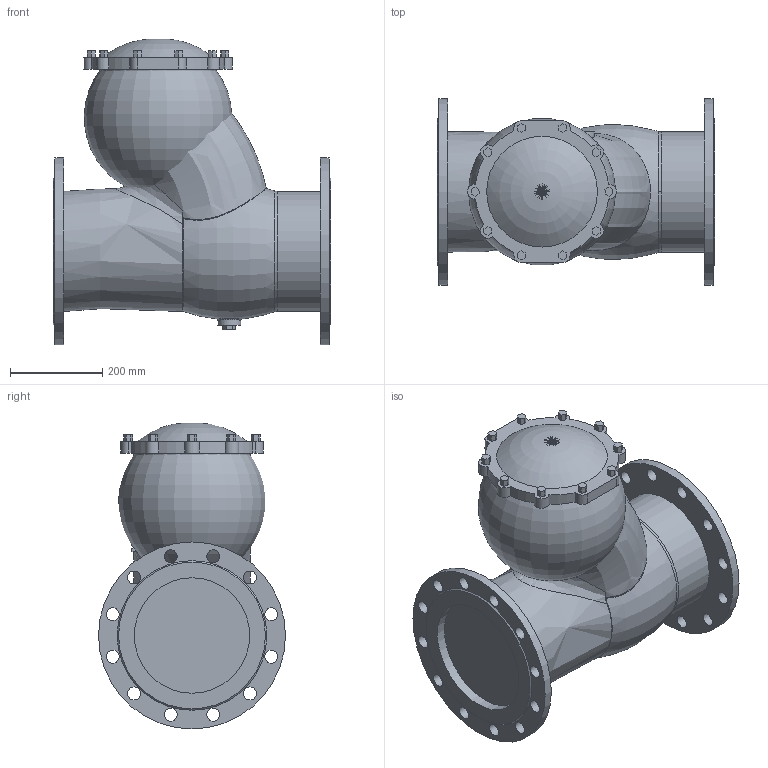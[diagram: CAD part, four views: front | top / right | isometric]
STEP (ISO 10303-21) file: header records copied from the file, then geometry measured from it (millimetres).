
FILE_DESCRIPTION(('STEP AP203'), '1');
FILE_NAME('抔黽鳧 012F.M DN250_PN16', '', ('UNSPECIFIED'), ('UNSPECIFIED'), 'ASCON STEP Converter 1.6', 'ASCON Math Kernel', '');
FILE_SCHEMA(('CONFIG_CONTROL_DESIGN'));
Length unit declared in the file: millimetre
Products named in the file (1): Клапан 012F.M DN250_PN16
Bounding box: 600 x 405 x 662.67 mm (x, y, z)
Volume: 5243163.4 mm3; surface area: 2226355.4 mm2
Topology: 1 solids, 2 shells, 176 faces, 447 edges, 297 vertices
Faces by surface type: plane 106, cylinder 57, bspline 6, torus 5, cone 2
Full cylindrical faces by diameter (mm): 28 x24, 50 x1, 250 x2, 260 x1, 405 x2
Entity records: 9684 total; most frequent: CARTESIAN_POINT 4007, DIRECTION 837, ORIENTED_EDGE 814, EDGE_CURVE 407, VERTEX_POINT 295, AXIS2_PLACEMENT_3D 291, EDGE_LOOP 284, LINE 255
